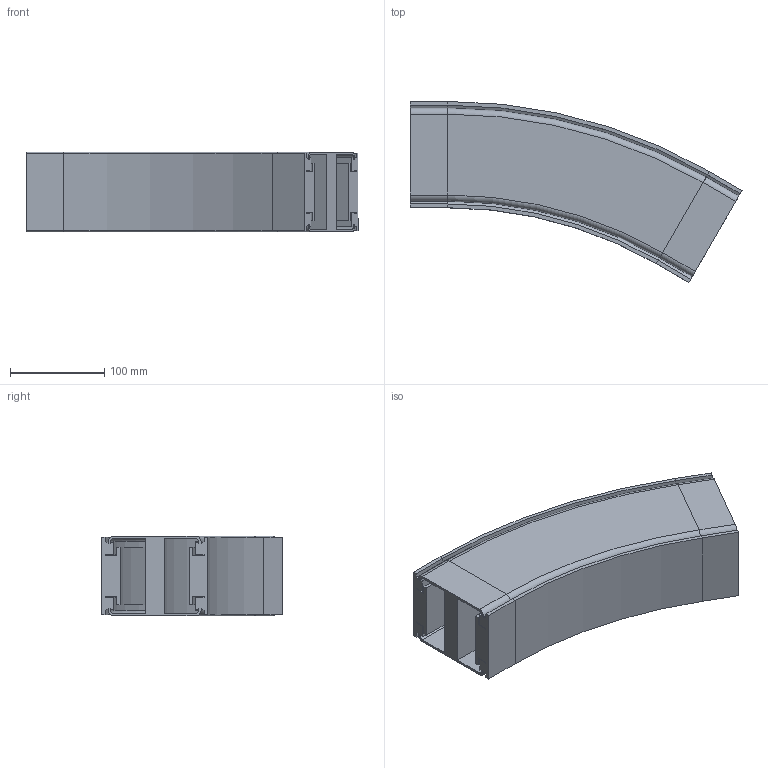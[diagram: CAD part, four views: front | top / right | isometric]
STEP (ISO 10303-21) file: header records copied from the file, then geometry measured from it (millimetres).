
FILE_DESCRIPTION (( 'STEP AP214' ), '1' );
FILE_NAME ('VC.85 Verticale bochtsectie.R500 30.STEP', '2017-02-08T08:13:15', ( '' ), ( '' ), 'SwSTEP 2.0', 'SolidWorks 2016', '' );
FILE_SCHEMA (( 'AUTOMOTIVE_DESIGN' ));
Length unit declared in the file: millimetre
Products named in the file (1): VC.85 Verticale bochtsectie.R500 30
Bounding box: 352.89 x 192.42 x 85 mm (x, y, z)
Volume: 1629402.2 mm3; surface area: 381653.6 mm2
Topology: 1 solids, 1 shells, 206 faces, 476 edges, 272 vertices
Faces by surface type: plane 144, cylinder 46, cone 8, torus 8
Entity records: 5674 total; most frequent: DIRECTION 990, CARTESIAN_POINT 955, ORIENTED_EDGE 952, EDGE_CURVE 476, VECTOR 376, LINE 376, AXIS2_PLACEMENT_3D 307, VERTEX_POINT 272
